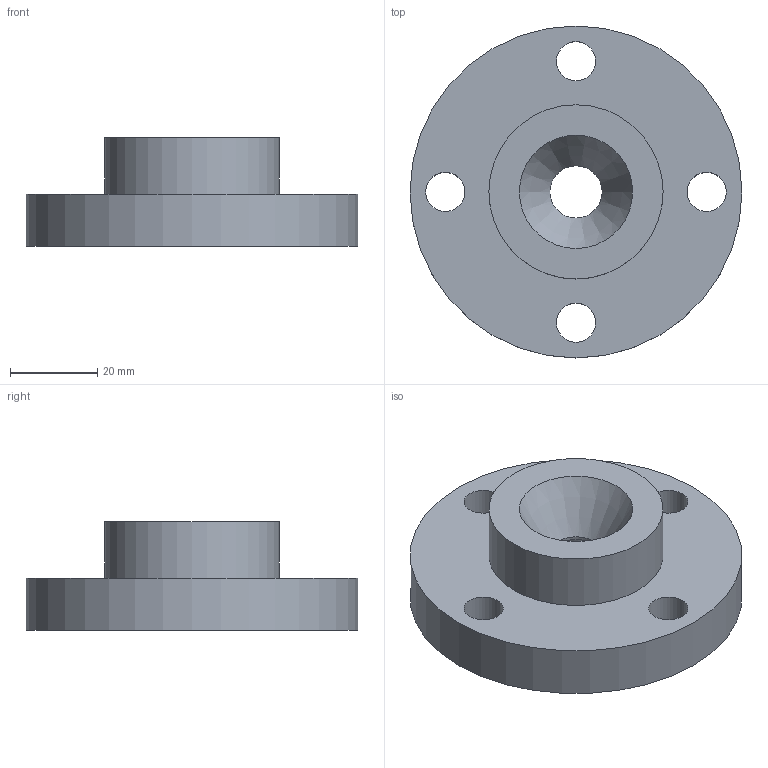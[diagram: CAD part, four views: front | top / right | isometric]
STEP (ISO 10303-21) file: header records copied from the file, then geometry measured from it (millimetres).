
FILE_DESCRIPTION(/* description */ ('BP2 LOCKOUT RECEIVER'),/* implementation_level */ '2;1');
FILE_NAME(/* name */ 'D:\5-MISC CAD FILES\BP2_RECEIVERS\BP2NE91.stp',/* time_stamp */ '2020-03-19T13:02:46-04:00',/* author */ ('CMcWilliams'),/* organization */ (''),/* preprocessor_version */ 'ST-DEVELOPER v18',/* originating_system */ 'Autodesk Inventor 2020',/* authorisation */ '');
FILE_SCHEMA (('AUTOMOTIVE_DESIGN { 1 0 10303 214 3 1 1 }'));
Length unit declared in the file: millimetre
Products named in the file (1): BP2NE91
Bounding box: 76.2 x 76.2 x 25 mm (x, y, z)
Volume: 60735.8 mm3; surface area: 15113.1 mm2
Topology: 1 solids, 1 shells, 12 faces, 37 edges, 28 vertices
Faces by surface type: cylinder 7, plane 3, cone 2
Full cylindrical faces by diameter (mm): 9 x4, 12 x1, 40 x1, 76.2 x1
Entity records: 510 total; most frequent: DIRECTION 91, CARTESIAN_POINT 78, ORIENTED_EDGE 74, AXIS2_PLACEMENT_3D 41, EDGE_CURVE 37, CIRCLE 28, VERTEX_POINT 28, EDGE_LOOP 23
